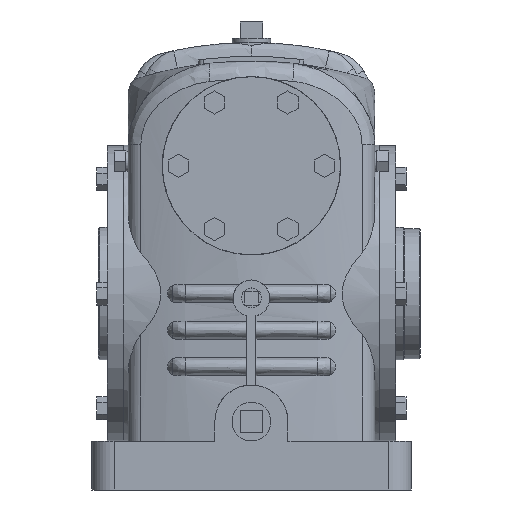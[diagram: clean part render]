
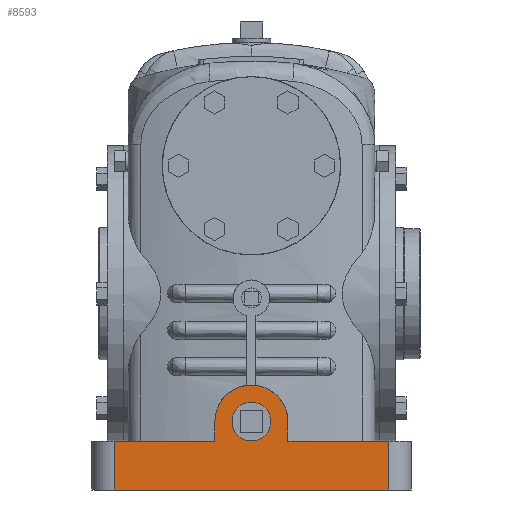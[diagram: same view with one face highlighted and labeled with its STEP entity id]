
A CAD part, left-side view. The second image highlights one B-rep face of the part: STEP entity #8593.
In plain terms, the highlighted planar face has unit normal (-1, 0, 0).
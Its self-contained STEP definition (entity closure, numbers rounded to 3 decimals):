
#577=LINE('',#14416,#1303);
#585=LINE('',#14452,#1311);
#587=LINE('',#14462,#1313);
#616=LINE('',#14585,#1342);
#617=LINE('',#14586,#1343);
#618=LINE('',#14590,#1344);
#619=LINE('',#14591,#1345);
#1303=VECTOR('',#11763,1000.);
#1311=VECTOR('',#11791,1000.);
#1313=VECTOR('',#11801,1000.);
#1342=VECTOR('',#11900,1000.);
#1343=VECTOR('',#11901,1000.);
#1344=VECTOR('',#11904,1000.);
#1345=VECTOR('',#11905,1000.);
#2163=ORIENTED_EDGE('',*,*,#4653,.T.);
#2164=ORIENTED_EDGE('',*,*,#4574,.T.);
#2165=ORIENTED_EDGE('',*,*,#4654,.F.);
#2166=ORIENTED_EDGE('',*,*,#4591,.F.);
#2167=ORIENTED_EDGE('',*,*,#4655,.F.);
#2168=ORIENTED_EDGE('',*,*,#4656,.F.);
#2169=ORIENTED_EDGE('',*,*,#4657,.F.);
#2170=ORIENTED_EDGE('',*,*,#4596,.F.);
#2171=ORIENTED_EDGE('',*,*,#4658,.T.);
#4574=EDGE_CURVE('',#5824,#5825,#577,.T.);
#4591=EDGE_CURVE('',#5841,#5842,#585,.T.);
#4596=EDGE_CURVE('',#5846,#5847,#587,.T.);
#4653=EDGE_CURVE('',#5897,#5897,#6701,.T.);
#4654=EDGE_CURVE('',#5842,#5825,#616,.T.);
#4655=EDGE_CURVE('',#5898,#5841,#617,.T.);
#4656=EDGE_CURVE('',#5899,#5898,#6702,.T.);
#4657=EDGE_CURVE('',#5847,#5899,#618,.T.);
#4658=EDGE_CURVE('',#5846,#5824,#619,.T.);
#5824=VERTEX_POINT('',#14417);
#5825=VERTEX_POINT('',#14418);
#5841=VERTEX_POINT('',#14451);
#5842=VERTEX_POINT('',#14453);
#5846=VERTEX_POINT('',#14463);
#5847=VERTEX_POINT('',#14464);
#5897=VERTEX_POINT('',#14584);
#5898=VERTEX_POINT('',#14587);
#5899=VERTEX_POINT('',#14589);
#6701=CIRCLE('',#11030,13.296);
#6702=CIRCLE('',#11031,25.4);
#6901=EDGE_LOOP('',(#2163));
#6902=EDGE_LOOP('',(#2164,#2165,#2166,#2167,#2168,#2169,#2170,#2171));
#7598=FACE_BOUND('',#6901,.T.);
#7599=FACE_BOUND('',#6902,.T.);
#8268=PLANE('',#11029);
#8593=ADVANCED_FACE('',(#7598,#7599),#8268,.F.);
#11029=AXIS2_PLACEMENT_3D('',#14582,#11896,#11897);
#11030=AXIS2_PLACEMENT_3D('',#14583,#11898,#11899);
#11031=AXIS2_PLACEMENT_3D('',#14588,#11902,#11903);
#11763=DIRECTION('',(0.,-1.,0.));
#11791=DIRECTION('',(0.,-1.,0.));
#11801=DIRECTION('',(0.,-1.,0.));
#11896=DIRECTION('',(1.,0.,0.));
#11897=DIRECTION('',(0.,0.,-1.));
#11898=DIRECTION('',(1.,0.,0.));
#11899=DIRECTION('',(0.,0.,-1.));
#11900=DIRECTION('',(0.,0.,-1.));
#11901=DIRECTION('',(0.,0.,-1.));
#11902=DIRECTION('',(1.,0.,0.));
#11903=DIRECTION('',(0.,1.,0.));
#11904=DIRECTION('',(0.,0.,1.));
#11905=DIRECTION('',(0.,0.,-1.));
#14416=CARTESIAN_POINT('',(-138.033,95.527,-136.462));
#14417=CARTESIAN_POINT('',(-138.033,95.527,-136.462));
#14418=CARTESIAN_POINT('',(-138.033,-95.527,-136.462));
#14451=CARTESIAN_POINT('',(-138.033,-25.4,-102.667));
#14452=CARTESIAN_POINT('',(-138.033,95.527,-102.667));
#14453=CARTESIAN_POINT('',(-138.033,-95.527,-102.667));
#14462=CARTESIAN_POINT('',(-138.033,95.527,-102.667));
#14463=CARTESIAN_POINT('',(-138.033,95.527,-102.667));
#14464=CARTESIAN_POINT('',(-138.033,25.4,-102.667));
#14582=CARTESIAN_POINT('',(-138.033,95.527,-102.667));
#14583=CARTESIAN_POINT('',(-138.033,0.,-88.9));
#14584=CARTESIAN_POINT('',(-138.033,0.,-102.196));
#14585=CARTESIAN_POINT('',(-138.033,-95.527,-102.667));
#14586=CARTESIAN_POINT('',(-138.033,-25.4,-88.9));
#14587=CARTESIAN_POINT('',(-138.033,-25.4,-88.9));
#14588=CARTESIAN_POINT('',(-138.033,0.,-88.9));
#14589=CARTESIAN_POINT('',(-138.033,25.4,-88.9));
#14590=CARTESIAN_POINT('',(-138.033,25.4,-88.9));
#14591=CARTESIAN_POINT('',(-138.033,95.527,-102.667));
